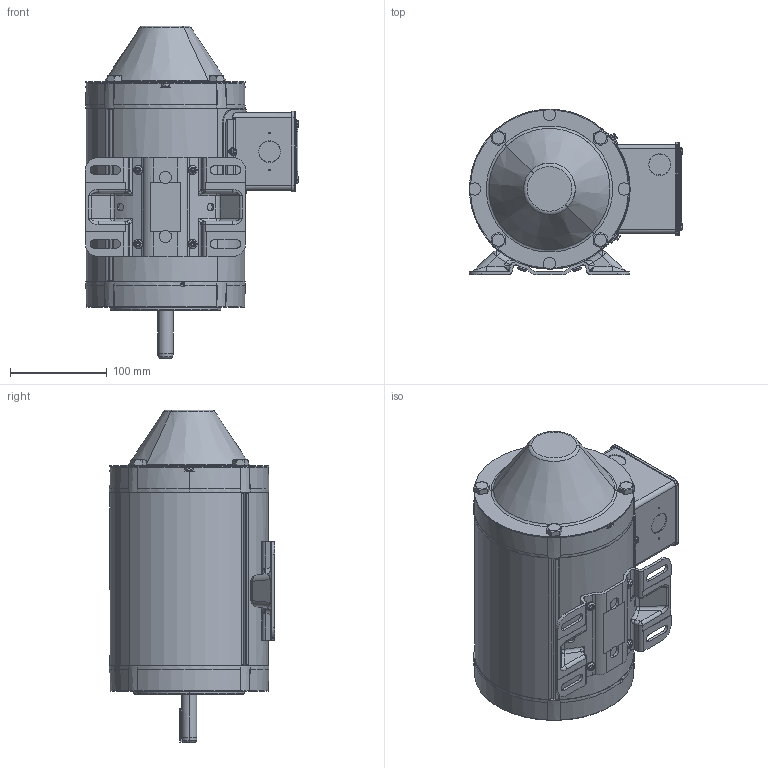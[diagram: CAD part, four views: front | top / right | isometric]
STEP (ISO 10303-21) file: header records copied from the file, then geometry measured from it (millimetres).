
FILE_DESCRIPTION (( 'STEP AP203' ), '1' );
FILE_NAME ('108745-706_RevA.STEP', '2019-02-19T06:50:10', ( '' ), ( '' ), 'SwSTEP 2.0', 'SolidWorks 2015', '' );
FILE_SCHEMA (( 'CONFIG_CONTROL_DESIGN' ));
Length unit declared in the file: inch
Products named in the file (1): 108745-706_RevA
Bounding box: 219.9 x 170.6 x 342.46 mm (x, y, z)
Volume: 784093.9 mm3; surface area: 607470.2 mm2
Topology: 38 solids, 38 shells, 3653 faces, 9461 edges, 5938 vertices
Faces by surface type: plane 1382, cylinder 828, cone 627, bspline 509, torus 299, sphere 8
Entity records: 138454 total; most frequent: CARTESIAN_POINT 53805, ORIENTED_EDGE 18826, DIRECTION 16389, EDGE_CURVE 9413, AXIS2_PLACEMENT_3D 6546, VERTEX_POINT 5938, EDGE_LOOP 3923, ADVANCED_FACE 3653
